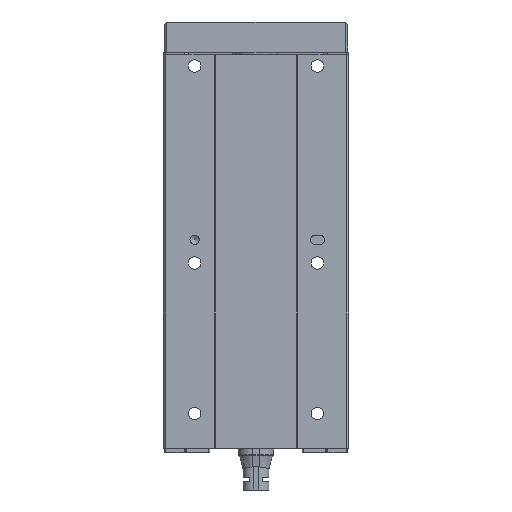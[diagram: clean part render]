
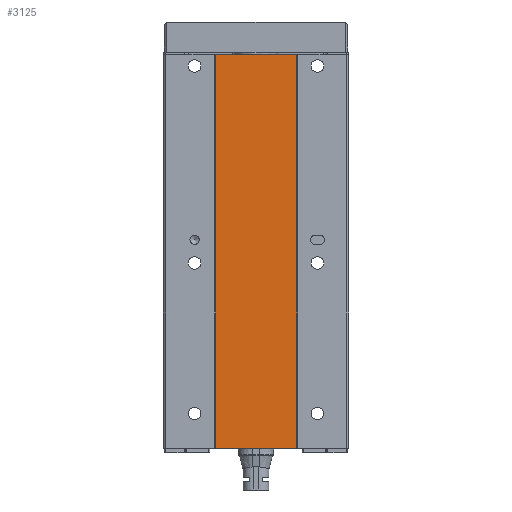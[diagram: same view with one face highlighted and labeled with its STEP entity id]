
A CAD part, front view. The second image highlights one B-rep face of the part: STEP entity #3125.
In plain terms, the highlighted planar face has unit normal (0, -1, 0).
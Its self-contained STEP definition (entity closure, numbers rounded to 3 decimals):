
#1444=CARTESIAN_POINT('',(17.5,0.0,-170.0));
#1445=VERTEX_POINT('',#1444);
#1452=CARTESIAN_POINT('',(-17.5,0.0,-170.0));
#1453=VERTEX_POINT('',#1452);
#1454=CARTESIAN_POINT('',(17.5,0.0,-170.0));
#1455=DIRECTION('',(-1.0,0.0,0.0));
#1456=VECTOR('',#1455,35.);
#1457=LINE('',#1454,#1456);
#1458=EDGE_CURVE('',#1445,#1453,#1457,.T.);
#2354=CARTESIAN_POINT('',(-17.5,0.0,0.0));
#2355=VERTEX_POINT('',#2354);
#2362=CARTESIAN_POINT('',(17.5,0.0,0.0));
#2363=VERTEX_POINT('',#2362);
#2364=CARTESIAN_POINT('',(-17.5,0.0,0.0));
#2365=DIRECTION('',(1.0,0.0,0.0));
#2366=VECTOR('',#2365,35.);
#2367=LINE('',#2364,#2366);
#2368=EDGE_CURVE('',#2355,#2363,#2367,.T.);
#3100=CARTESIAN_POINT('',(-17.5,0.0,0.0));
#3101=DIRECTION('',(0.0,0.0,-1.0));
#3102=VECTOR('',#3101,170.0);
#3103=LINE('',#3100,#3102);
#3104=EDGE_CURVE('',#2355,#1453,#3103,.T.);
#3109=CARTESIAN_POINT('',(17.5,0.0,0.0));
#3110=DIRECTION('',(0.0,-1.0,0.0));
#3111=DIRECTION('',(0.0,0.0,-1.0));
#3112=AXIS2_PLACEMENT_3D('',#3109,#3110,#3111);
#3113=PLANE('',#3112);
#3114=ORIENTED_EDGE('',*,*,#2368,.F.);
#3115=ORIENTED_EDGE('',*,*,#3104,.T.);
#3116=ORIENTED_EDGE('',*,*,#1458,.F.);
#3117=CARTESIAN_POINT('',(17.5,0.0,0.0));
#3118=DIRECTION('',(0.0,0.0,-1.0));
#3119=VECTOR('',#3118,170.0);
#3120=LINE('',#3117,#3119);
#3121=EDGE_CURVE('',#2363,#1445,#3120,.T.);
#3122=ORIENTED_EDGE('',*,*,#3121,.F.);
#3123=EDGE_LOOP('',(#3114,#3115,#3116,#3122));
#3124=FACE_OUTER_BOUND('',#3123,.T.);
#3125=ADVANCED_FACE('',(#3124),#3113,.T.);
